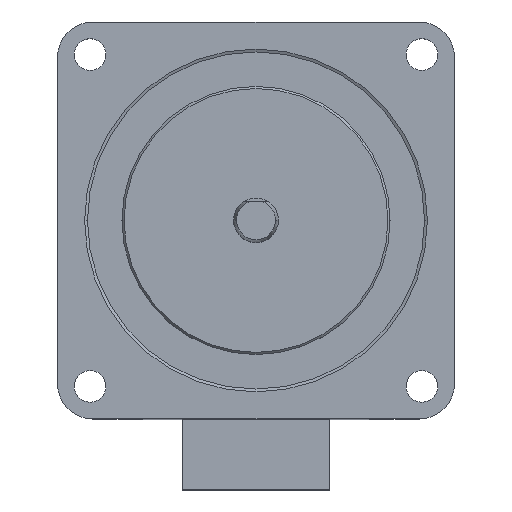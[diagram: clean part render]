
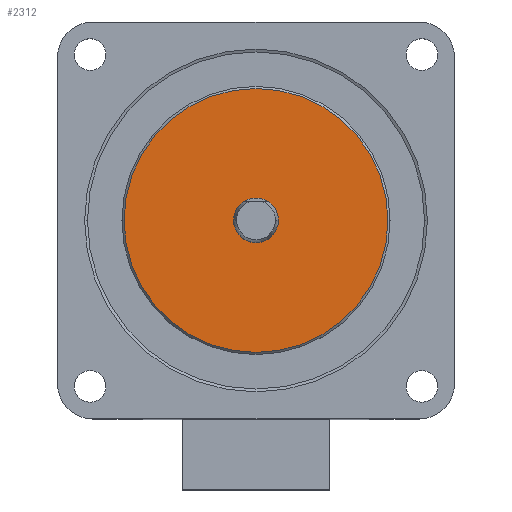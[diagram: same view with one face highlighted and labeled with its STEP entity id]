
A CAD part, top view. The second image highlights one B-rep face of the part: STEP entity #2312.
In plain terms, the highlighted planar face has unit normal (0, 0, 1).
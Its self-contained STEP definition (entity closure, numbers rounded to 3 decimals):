
#95 = EDGE_CURVE ( 'NONE', #2779, #1991, #454, .T. ) ;
#165 = CIRCLE ( 'NONE', #1742, 3.175 ) ;
#236 = ORIENTED_EDGE ( 'NONE', *, *, #2137, .T. ) ;
#307 = PLANE ( 'NONE',  #372 ) ;
#372 = AXIS2_PLACEMENT_3D ( 'NONE', #1133, #2619, #2025 ) ;
#404 = ORIENTED_EDGE ( 'NONE', *, *, #2561, .T. ) ;
#454 = CIRCLE ( 'NONE', #1502, 18.75 ) ;
#585 = CIRCLE ( 'NONE', #1671, 3.175 ) ;
#607 = FACE_BOUND ( 'NONE', #1267, .T. ) ;
#696 = DIRECTION ( 'NONE',  ( -1., 0., 0. ) ) ;
#715 = EDGE_LOOP ( 'NONE', ( #236, #1856 ) ) ;
#849 = DIRECTION ( 'NONE',  ( -1., 0., 0. ) ) ;
#961 = CARTESIAN_POINT ( 'NONE',  ( 0., 0., 0. ) ) ;
#1003 = DIRECTION ( 'NONE',  ( -1., 0., 0. ) ) ;
#1047 = VERTEX_POINT ( 'NONE', #1930 ) ;
#1085 = VERTEX_POINT ( 'NONE', #1970 ) ;
#1090 = CARTESIAN_POINT ( 'NONE',  ( -18.75, 0., 0. ) ) ;
#1105 = CIRCLE ( 'NONE', #1865, 18.75 ) ;
#1133 = CARTESIAN_POINT ( 'NONE',  ( 0., 0., 0. ) ) ;
#1139 = DIRECTION ( 'NONE',  ( 0., 0., -1. ) ) ;
#1254 = ORIENTED_EDGE ( 'NONE', *, *, #1634, .T. ) ;
#1267 = EDGE_LOOP ( 'NONE', ( #404, #1254 ) ) ;
#1502 = AXIS2_PLACEMENT_3D ( 'NONE', #2423, #1572, #696 ) ;
#1572 = DIRECTION ( 'NONE',  ( 0., 0., 1. ) ) ;
#1634 = EDGE_CURVE ( 'NONE', #1047, #1085, #585, .T. ) ;
#1671 = AXIS2_PLACEMENT_3D ( 'NONE', #961, #2028, #2239 ) ;
#1742 = AXIS2_PLACEMENT_3D ( 'NONE', #2208, #1139, #1003 ) ;
#1856 = ORIENTED_EDGE ( 'NONE', *, *, #95, .T. ) ;
#1865 = AXIS2_PLACEMENT_3D ( 'NONE', #1940, #2161, #849 ) ;
#1930 = CARTESIAN_POINT ( 'NONE',  ( 3.175, 0., 0. ) ) ;
#1940 = CARTESIAN_POINT ( 'NONE',  ( 0., 0., 0. ) ) ;
#1970 = CARTESIAN_POINT ( 'NONE',  ( -3.175, 0., 0. ) ) ;
#1991 = VERTEX_POINT ( 'NONE', #1090 ) ;
#2025 = DIRECTION ( 'NONE',  ( -1., 0., 0. ) ) ;
#2028 = DIRECTION ( 'NONE',  ( 0., 0., -1. ) ) ;
#2137 = EDGE_CURVE ( 'NONE', #1991, #2779, #1105, .T. ) ;
#2161 = DIRECTION ( 'NONE',  ( 0., 0., 1. ) ) ;
#2208 = CARTESIAN_POINT ( 'NONE',  ( 0., 0., 0. ) ) ;
#2239 = DIRECTION ( 'NONE',  ( -1., 0., 0. ) ) ;
#2245 = CARTESIAN_POINT ( 'NONE',  ( 18.75, 0., 0. ) ) ;
#2312 = ADVANCED_FACE ( 'NONE', ( #2316, #607 ), #307, .F. ) ;
#2316 = FACE_OUTER_BOUND ( 'NONE', #715, .T. ) ;
#2423 = CARTESIAN_POINT ( 'NONE',  ( 0., 0., 0. ) ) ;
#2561 = EDGE_CURVE ( 'NONE', #1085, #1047, #165, .T. ) ;
#2619 = DIRECTION ( 'NONE',  ( 0., 0., -1. ) ) ;
#2779 = VERTEX_POINT ( 'NONE', #2245 ) ;
